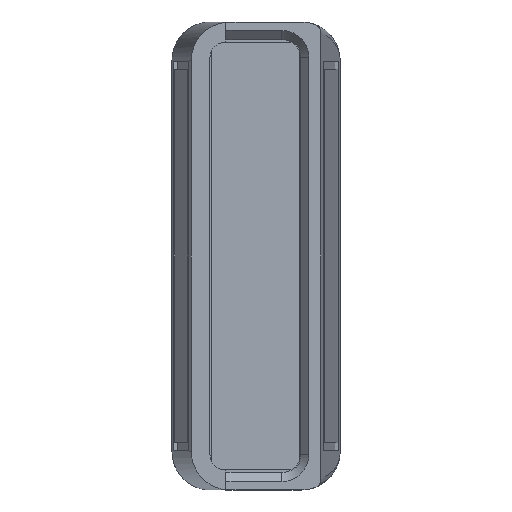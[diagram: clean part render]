
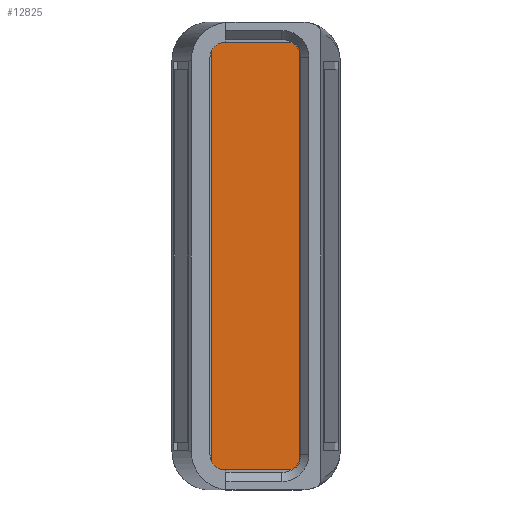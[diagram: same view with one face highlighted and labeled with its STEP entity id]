
A CAD part, left-side view. The second image highlights one B-rep face of the part: STEP entity #12825.
In plain terms, the highlighted planar face has unit normal (-1, 0, 0) as drawn and (0, 0, 1) by its records, which use the part's own axes.
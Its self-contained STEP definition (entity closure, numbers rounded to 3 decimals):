
#53 = LINE ( 'NONE', #9689, #8710 ) ;
#90 = ORIENTED_EDGE ( 'NONE', *, *, #6494, .T. ) ;
#362 = LINE ( 'NONE', #10403, #4977 ) ;
#499 = DIRECTION ( 'NONE',  ( 0., 0., 1. ) ) ;
#533 = VERTEX_POINT ( 'NONE', #21848 ) ;
#961 = EDGE_CURVE ( 'NONE', #13019, #22156, #10383, .T. ) ;
#1691 = DIRECTION ( 'NONE',  ( 0., 0., 1. ) ) ;
#2109 = LINE ( 'NONE', #18034, #10763 ) ;
#4164 = EDGE_CURVE ( 'NONE', #8998, #19343, #53, .T. ) ;
#4598 = CARTESIAN_POINT ( 'NONE',  ( -27.65, -4.55, 0. ) ) ;
#4977 = VECTOR ( 'NONE', #20804, 1000. ) ;
#5304 = LINE ( 'NONE', #5513, #13936 ) ;
#5394 = ORIENTED_EDGE ( 'NONE', *, *, #16392, .T. ) ;
#5513 = CARTESIAN_POINT ( 'NONE',  ( -27.65, 5.75, 0. ) ) ;
#5645 = FACE_OUTER_BOUND ( 'NONE', #19791, .T. ) ;
#6012 = AXIS2_PLACEMENT_3D ( 'NONE', #9041, #21211, #10799 ) ;
#6365 = EDGE_CURVE ( 'NONE', #19343, #12149, #21873, .T. ) ;
#6494 = EDGE_CURVE ( 'NONE', #533, #18548, #5304, .T. ) ;
#6974 = CARTESIAN_POINT ( 'NONE',  ( 0., 0., 0. ) ) ;
#7239 = DIRECTION ( 'NONE',  ( -1., 0., 0. ) ) ;
#7655 = CARTESIAN_POINT ( 'NONE',  ( -26.15, 5.75, 0. ) ) ;
#7656 = DIRECTION ( 'NONE',  ( 0., 1., 0. ) ) ;
#7868 = CARTESIAN_POINT ( 'NONE',  ( -26.15, 4.25, 0. ) ) ;
#8708 = DIRECTION ( 'NONE',  ( 0., 0., 1. ) ) ;
#8710 = VECTOR ( 'NONE', #20116, 1000. ) ;
#8998 = VERTEX_POINT ( 'NONE', #17283 ) ;
#9041 = CARTESIAN_POINT ( 'NONE',  ( 26.45, -4.55, 0. ) ) ;
#9105 = CIRCLE ( 'NONE', #14935, 1.5 ) ;
#9135 = CARTESIAN_POINT ( 'NONE',  ( 26.45, -5.75, 0. ) ) ;
#9201 = CIRCLE ( 'NONE', #11771, 1.5 ) ;
#9373 = ORIENTED_EDGE ( 'NONE', *, *, #14290, .T. ) ;
#9607 = DIRECTION ( 'NONE',  ( 1., 0., 0. ) ) ;
#9689 = CARTESIAN_POINT ( 'NONE',  ( -27.65, 5.75, 0. ) ) ;
#10383 = CIRCLE ( 'NONE', #6012, 1.2 ) ;
#10403 = CARTESIAN_POINT ( 'NONE',  ( -27.65, -5.75, 0. ) ) ;
#10763 = VECTOR ( 'NONE', #7656, 1000. ) ;
#10799 = DIRECTION ( 'NONE',  ( 1., 0., 0. ) ) ;
#10891 = CARTESIAN_POINT ( 'NONE',  ( 26.15, 4.25, 0. ) ) ;
#11771 = AXIS2_PLACEMENT_3D ( 'NONE', #10891, #499, #12590 ) ;
#12043 = CARTESIAN_POINT ( 'NONE',  ( -26.45, -4.55, 0. ) ) ;
#12062 = PLANE ( 'NONE',  #19893 ) ;
#12149 = VERTEX_POINT ( 'NONE', #20274 ) ;
#12590 = DIRECTION ( 'NONE',  ( 1., 0., 0. ) ) ;
#12825 = ADVANCED_FACE ( 'NONE', ( #5645 ), #12062, .T. ) ;
#13019 = VERTEX_POINT ( 'NONE', #9135 ) ;
#13456 = CARTESIAN_POINT ( 'NONE',  ( 27.65, 4.25, 0. ) ) ;
#13740 = DIRECTION ( 'NONE',  ( 1., 0., 0. ) ) ;
#13936 = VECTOR ( 'NONE', #7239, 1000. ) ;
#14198 = EDGE_CURVE ( 'NONE', #22156, #14456, #2109, .T. ) ;
#14290 = EDGE_CURVE ( 'NONE', #18548, #8998, #9105, .T. ) ;
#14342 = ORIENTED_EDGE ( 'NONE', *, *, #14198, .T. ) ;
#14456 = VERTEX_POINT ( 'NONE', #13456 ) ;
#14935 = AXIS2_PLACEMENT_3D ( 'NONE', #7868, #20023, #9607 ) ;
#15406 = ORIENTED_EDGE ( 'NONE', *, *, #961, .T. ) ;
#16392 = EDGE_CURVE ( 'NONE', #12149, #13019, #362, .T. ) ;
#17283 = CARTESIAN_POINT ( 'NONE',  ( -27.65, 4.25, 0. ) ) ;
#17378 = ORIENTED_EDGE ( 'NONE', *, *, #17791, .T. ) ;
#17791 = EDGE_CURVE ( 'NONE', #14456, #533, #9201, .T. ) ;
#18034 = CARTESIAN_POINT ( 'NONE',  ( 27.65, 5.75, 0. ) ) ;
#18548 = VERTEX_POINT ( 'NONE', #7655 ) ;
#18564 = CARTESIAN_POINT ( 'NONE',  ( 27.65, -4.55, 0. ) ) ;
#19343 = VERTEX_POINT ( 'NONE', #4598 ) ;
#19791 = EDGE_LOOP ( 'NONE', ( #5394, #15406, #14342, #17378, #90, #9373, #20800, #20309 ) ) ;
#19893 = AXIS2_PLACEMENT_3D ( 'NONE', #6974, #8708, #20858 ) ;
#20023 = DIRECTION ( 'NONE',  ( 0., 0., 1. ) ) ;
#20116 = DIRECTION ( 'NONE',  ( 0., -1., 0. ) ) ;
#20274 = CARTESIAN_POINT ( 'NONE',  ( -26.45, -5.75, 0. ) ) ;
#20309 = ORIENTED_EDGE ( 'NONE', *, *, #6365, .T. ) ;
#20800 = ORIENTED_EDGE ( 'NONE', *, *, #4164, .T. ) ;
#20804 = DIRECTION ( 'NONE',  ( 1., 0., 0. ) ) ;
#20858 = DIRECTION ( 'NONE',  ( 1., 0., 0. ) ) ;
#21211 = DIRECTION ( 'NONE',  ( 0., 0., 1. ) ) ;
#21848 = CARTESIAN_POINT ( 'NONE',  ( 26.15, 5.75, 0. ) ) ;
#21873 = CIRCLE ( 'NONE', #21926, 1.2 ) ;
#21926 = AXIS2_PLACEMENT_3D ( 'NONE', #12043, #1691, #13740 ) ;
#22156 = VERTEX_POINT ( 'NONE', #18564 ) ;
